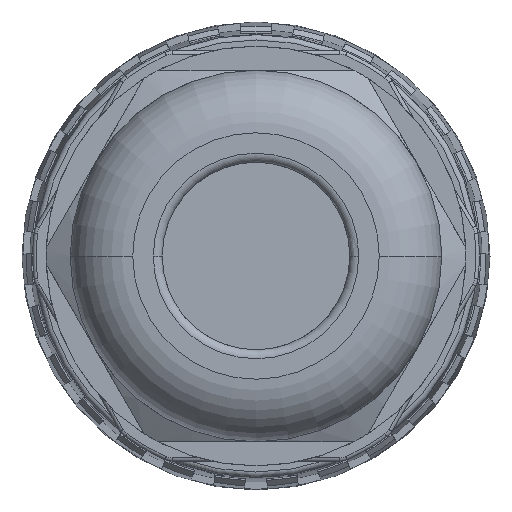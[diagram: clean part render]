
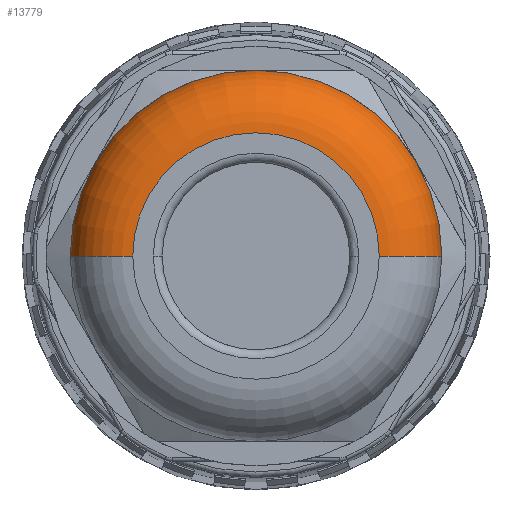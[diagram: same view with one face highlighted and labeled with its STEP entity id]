
A CAD part, front view. The second image highlights one B-rep face of the part: STEP entity #13779.
In plain terms, the highlighted toroidal (fillet/blend) face has major radius 6.9 mm and minor radius 3.5 mm.
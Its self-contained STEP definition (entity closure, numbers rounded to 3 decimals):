
#5149=CARTESIAN_POINT('',(0.,-51.,0.));
#5150=DIRECTION('',(0.,1.,0.));
#5151=DIRECTION('',(-1.,0.,0.));
#5152=AXIS2_PLACEMENT_3D('',#5149,#5150,#5151);
#5154=CARTESIAN_POINT('',(0.,-51.,0.));
#5155=DIRECTION('',(0.,1.,0.));
#5156=DIRECTION('',(1.,0.,0.005));
#5157=AXIS2_PLACEMENT_3D('',#5154,#5155,#5156);
#5159=CARTESIAN_POINT('',(6.9,-51.,0.));
#5160=DIRECTION('',(0.,0.,-1.));
#5161=DIRECTION('',(1.,0.,0.));
#5162=AXIS2_PLACEMENT_3D('',#5159,#5160,#5161);
#5164=CARTESIAN_POINT('',(0.,-54.5,0.));
#5165=DIRECTION('',(0.,-1.,0.));
#5166=DIRECTION('',(1.,0.,0.));
#5167=AXIS2_PLACEMENT_3D('',#5164,#5165,#5166);
#5169=CARTESIAN_POINT('',(-6.9,-51.,0.));
#5170=DIRECTION('',(0.,0.,-1.));
#5171=DIRECTION('',(0.,-1.,0.));
#5172=AXIS2_PLACEMENT_3D('',#5169,#5170,#5171);
#5184=CARTESIAN_POINT('',(0.,-54.5,0.));
#5185=DIRECTION('',(0.,1.,0.));
#5186=DIRECTION('',(-1.,0.,0.));
#5187=AXIS2_PLACEMENT_3D('',#5184,#5185,#5186);
#7864=CARTESIAN_POINT('',(6.9,-54.5,0.));
#7866=VERTEX_POINT('',#7864);
#7868=CARTESIAN_POINT('',(-6.9,-54.5,0.));
#7869=CARTESIAN_POINT('',(6.9,-54.5,0.035));
#7870=VERTEX_POINT('',#7868);
#7871=VERTEX_POINT('',#7869);
#7881=CARTESIAN_POINT('',(10.4,-51.,0.));
#7883=VERTEX_POINT('',#7881);
#7884=CARTESIAN_POINT('',(-10.4,-51.,0.));
#7885=VERTEX_POINT('',#7884);
#8050=CARTESIAN_POINT('',(10.4,-51.,0.055));
#8051=VERTEX_POINT('',#8050);
#13762=CARTESIAN_POINT('',(0.,-51.,0.));
#13763=DIRECTION('',(0.,-1.,0.));
#13764=DIRECTION('',(-1.,0.,-0.005));
#13765=AXIS2_PLACEMENT_3D('',#13762,#13763,#13764);
#13766=TOROIDAL_SURFACE('',#13765,6.9,3.5);
#13767=ORIENTED_EDGE('',*,*,#13753,.T.);
#13768=ORIENTED_EDGE('',*,*,#13751,.T.);
#13770=ORIENTED_EDGE('',*,*,#13769,.T.);
#13772=ORIENTED_EDGE('',*,*,#13771,.T.);
#13774=ORIENTED_EDGE('',*,*,#13773,.F.);
#13776=ORIENTED_EDGE('',*,*,#13775,.T.);
#13777=EDGE_LOOP('',(#13767,#13768,#13770,#13772,#13774,#13776));
#13778=FACE_OUTER_BOUND('',#13777,.F.);
#5153=CIRCLE('',#5152,10.4);
#5158=CIRCLE('',#5157,10.4);
#5163=CIRCLE('',#5162,3.5);
#5168=CIRCLE('',#5167,6.9);
#5173=CIRCLE('',#5172,3.5);
#5188=CIRCLE('',#5187,6.9);
#13751=EDGE_CURVE('',#8051,#7883,#5158,.T.);
#13753=EDGE_CURVE('',#7885,#8051,#5153,.T.);
#13769=EDGE_CURVE('',#7883,#7866,#5163,.T.);
#13771=EDGE_CURVE('',#7866,#7871,#5168,.T.);
#13773=EDGE_CURVE('',#7870,#7871,#5188,.T.);
#13775=EDGE_CURVE('',#7870,#7885,#5173,.T.);
#13779=ADVANCED_FACE('',(#13778),#13766,.T.);
